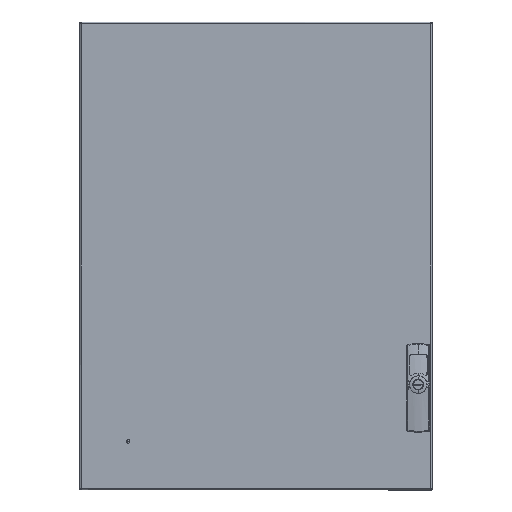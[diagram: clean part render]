
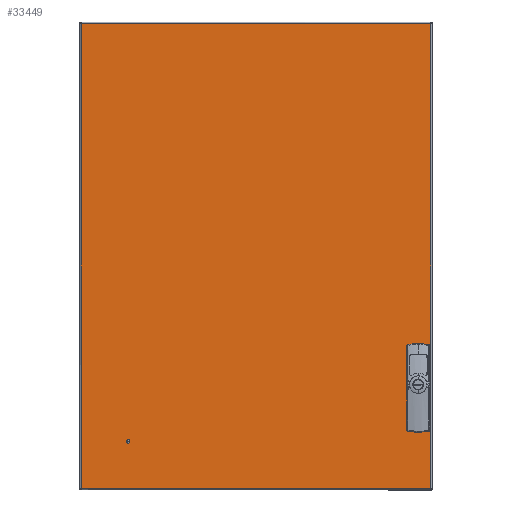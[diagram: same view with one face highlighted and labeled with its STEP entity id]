
A CAD part, top view. The second image highlights one B-rep face of the part: STEP entity #33449.
In plain terms, the highlighted planar face has unit normal (0, 0, 1) as drawn and (0, 0, -1) by its records, which use the part's own axes.
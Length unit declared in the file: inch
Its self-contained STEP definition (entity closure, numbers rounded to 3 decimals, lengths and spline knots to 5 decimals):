
#7613 = ORIENTED_EDGE ( 'NONE', *, *, #33613, .T. ) ;
#25292 = CARTESIAN_POINT ( 'NONE',  ( -11.2435, -6.0665, 0. ) ) ;
#25301 = CARTESIAN_POINT ( 'NONE',  ( -10.292, -10.9425, 0. ) ) ;
#25319 = CARTESIAN_POINT ( 'NONE',  ( -10.115, -10.9425, 0. ) ) ;
#25324 = CARTESIAN_POINT ( 'NONE',  ( -11.332, -6.0665, 0. ) ) ;
#25335 = CARTESIAN_POINT ( 'NONE',  ( -10.115, -6.0665, 0. ) ) ;
#25340 = CARTESIAN_POINT ( 'NONE',  ( -10.292, -6.0665, 0. ) ) ;
#25345 = DIRECTION ( 'NONE',  ( 1., 0., 0. ) ) ;
#25346 = DIRECTION ( 'NONE',  ( 0., 0., 1. ) ) ;
#25347 = AXIS2_PLACEMENT_3D ( 'NONE', #25292, #25346, #25345 ) ;
#25348 = CIRCLE ( 'NONE', #25347, 0.0885 ) ;
#25369 = DIRECTION ( 'NONE',  ( 1., 0., 0. ) ) ;
#25370 = DIRECTION ( 'NONE',  ( 0., 0., 1. ) ) ;
#25371 = CARTESIAN_POINT ( 'NONE',  ( -10.2035, -6.0665, 0. ) ) ;
#25372 = AXIS2_PLACEMENT_3D ( 'NONE', #25371, #25370, #25369 ) ;
#25373 = CIRCLE ( 'NONE', #25372, 0.0885 ) ;
#25402 = AXIS2_PLACEMENT_3D ( 'NONE', #25422, #25475, #25474 ) ;
#25422 = CARTESIAN_POINT ( 'NONE',  ( -10.2035, -10.9425, 0. ) ) ;
#25430 = CIRCLE ( 'NONE', #25402, 0.0885 ) ;
#25444 = CARTESIAN_POINT ( 'NONE',  ( -11.155, -6.0665, 0. ) ) ;
#25474 = DIRECTION ( 'NONE',  ( 1., 0., 0. ) ) ;
#25475 = DIRECTION ( 'NONE',  ( 0., 0., 1. ) ) ;
#25479 = CARTESIAN_POINT ( 'NONE',  ( -11.332, -10.9425, 0. ) ) ;
#25519 = DIRECTION ( 'NONE',  ( 1., 0., 0. ) ) ;
#25520 = DIRECTION ( 'NONE',  ( 0., 0., 1. ) ) ;
#25521 = AXIS2_PLACEMENT_3D ( 'NONE', #25531, #25520, #25519 ) ;
#25523 = CIRCLE ( 'NONE', #25521, 0.0885 ) ;
#25531 = CARTESIAN_POINT ( 'NONE',  ( -11.2435, -10.9425, 0. ) ) ;
#25532 = CARTESIAN_POINT ( 'NONE',  ( -11.155, -10.9425, 0. ) ) ;
#25658 = DIRECTION ( 'NONE',  ( 1., 0., 0. ) ) ;
#25659 = VECTOR ( 'NONE', #25658, 39.37008 ) ;
#25660 = CARTESIAN_POINT ( 'NONE',  ( -11.3985, -10.4045, 0. ) ) ;
#25661 = LINE ( 'NONE', #25660, #25659 ) ;
#25662 = FACE_BOUND ( 'NONE', #33516, .T. ) ;
#25663 = LINE ( 'NONE', #25712, #25703 ) ;
#25664 = FACE_BOUND ( 'NONE', #33388, .T. ) ;
#25666 = FACE_BOUND ( 'NONE', #33507, .T. ) ;
#25667 = FACE_BOUND ( 'NONE', #33466, .T. ) ;
#25672 = FACE_BOUND ( 'NONE', #33506, .T. ) ;
#25676 = PLANE ( 'NONE',  #25681 ) ;
#25681 = AXIS2_PLACEMENT_3D ( 'NONE', #25686, #25685, #25711 ) ;
#25682 = FACE_OUTER_BOUND ( 'NONE', #33492, .T. ) ;
#25685 = DIRECTION ( 'NONE',  ( 0., 0., 1. ) ) ;
#25686 = CARTESIAN_POINT ( 'NONE',  ( -11.5945, 15.4115, 0. ) ) ;
#25689 = CARTESIAN_POINT ( 'NONE',  ( -10.2035, -6.0665, 0. ) ) ;
#25692 = AXIS2_PLACEMENT_3D ( 'NONE', #25689, #25700, #25733 ) ;
#25693 = CIRCLE ( 'NONE', #25692, 0.0885 ) ;
#25694 = DIRECTION ( 'NONE',  ( 0., 1., 0. ) ) ;
#25695 = VECTOR ( 'NONE', #25694, 39.37008 ) ;
#25696 = CARTESIAN_POINT ( 'NONE',  ( -11.0885, -6.6045, 0. ) ) ;
#25697 = LINE ( 'NONE', #25696, #25695 ) ;
#25698 = CARTESIAN_POINT ( 'NONE',  ( -11.3985, -6.6045, 0. ) ) ;
#25699 = CARTESIAN_POINT ( 'NONE',  ( -11.0885, -10.4045, 0. ) ) ;
#25700 = DIRECTION ( 'NONE',  ( 0., 0., 1. ) ) ;
#25701 = CARTESIAN_POINT ( 'NONE',  ( -11.5345, 15.3515, 0. ) ) ;
#25702 = DIRECTION ( 'NONE',  ( -1., 0., 0. ) ) ;
#25703 = VECTOR ( 'NONE', #25702, 39.37008 ) ;
#25711 = DIRECTION ( 'NONE',  ( 1., 0., 0. ) ) ;
#25712 = CARTESIAN_POINT ( 'NONE',  ( -11.3985, -6.6045, 0. ) ) ;
#25718 = CARTESIAN_POINT ( 'NONE',  ( -11.5345, -15.40443, 0. ) ) ;
#25719 = LINE ( 'NONE', #25718, #25765 ) ;
#25724 = CARTESIAN_POINT ( 'NONE',  ( -11.0885, -6.6045, 0. ) ) ;
#25732 = CARTESIAN_POINT ( 'NONE',  ( -11.3985, -10.4045, 0. ) ) ;
#25733 = DIRECTION ( 'NONE',  ( 1., 0., 0. ) ) ;
#25743 = CARTESIAN_POINT ( 'NONE',  ( 11.5345, 15.3515, 0. ) ) ;
#25744 = DIRECTION ( 'NONE',  ( 1., 0., 0. ) ) ;
#25745 = VECTOR ( 'NONE', #25744, 39.37008 ) ;
#25749 = CARTESIAN_POINT ( 'NONE',  ( -11.58743, 15.3515, 0. ) ) ;
#25750 = LINE ( 'NONE', #25749, #25745 ) ;
#25755 = DIRECTION ( 'NONE',  ( 0., 1., 0. ) ) ;
#25761 = DIRECTION ( 'NONE',  ( 0., -1., 0. ) ) ;
#25762 = VECTOR ( 'NONE', #25761, 39.37008 ) ;
#25763 = CARTESIAN_POINT ( 'NONE',  ( -11.3985, -6.6045, 0. ) ) ;
#25764 = LINE ( 'NONE', #25763, #25762 ) ;
#25765 = VECTOR ( 'NONE', #25755, 39.37008 ) ;
#25779 = DIRECTION ( 'NONE',  ( 1., 0., 0. ) ) ;
#25780 = DIRECTION ( 'NONE',  ( 0., 0., 1. ) ) ;
#25781 = CARTESIAN_POINT ( 'NONE',  ( -11.2435, -10.9425, 0. ) ) ;
#25783 = AXIS2_PLACEMENT_3D ( 'NONE', #25781, #25780, #25779 ) ;
#25787 = DIRECTION ( 'NONE',  ( 1., 0., 0. ) ) ;
#25788 = DIRECTION ( 'NONE',  ( 0., 0., 1. ) ) ;
#25789 = CARTESIAN_POINT ( 'NONE',  ( -10.2035, -10.9425, 0. ) ) ;
#25790 = AXIS2_PLACEMENT_3D ( 'NONE', #25789, #25788, #25787 ) ;
#25791 = CARTESIAN_POINT ( 'NONE',  ( -11.5345, -15.3515, 0. ) ) ;
#25793 = CIRCLE ( 'NONE', #25783, 0.0885 ) ;
#25796 = DIRECTION ( 'NONE',  ( 1., 0., 0. ) ) ;
#25797 = DIRECTION ( 'NONE',  ( 0., 0., 1. ) ) ;
#25798 = CARTESIAN_POINT ( 'NONE',  ( -11.2435, -6.0665, 0. ) ) ;
#25801 = AXIS2_PLACEMENT_3D ( 'NONE', #25798, #25797, #25796 ) ;
#25802 = CIRCLE ( 'NONE', #25801, 0.0885 ) ;
#25806 = CIRCLE ( 'NONE', #25790, 0.0885 ) ;
#25889 = CARTESIAN_POINT ( 'NONE',  ( 11.5345, -15.3515, 0. ) ) ;
#25924 = DIRECTION ( 'NONE',  ( 0., -1., 0. ) ) ;
#25925 = VECTOR ( 'NONE', #25924, 39.37008 ) ;
#25926 = CARTESIAN_POINT ( 'NONE',  ( 11.5345, 15.40443, 0. ) ) ;
#25927 = LINE ( 'NONE', #25926, #25925 ) ;
#25953 = DIRECTION ( 'NONE',  ( -1., 0., 0. ) ) ;
#25954 = VECTOR ( 'NONE', #25953, 39.37008 ) ;
#25955 = CARTESIAN_POINT ( 'NONE',  ( 11.58743, -15.3515, 0. ) ) ;
#25956 = LINE ( 'NONE', #25955, #25954 ) ;
#33237 = VERTEX_POINT ( 'NONE', #25301 ) ;
#33240 = VERTEX_POINT ( 'NONE', #25319 ) ;
#33244 = EDGE_CURVE ( 'NONE', #33256, #33301, #25348, .T. ) ;
#33256 = VERTEX_POINT ( 'NONE', #25324 ) ;
#33257 = VERTEX_POINT ( 'NONE', #25340 ) ;
#33258 = VERTEX_POINT ( 'NONE', #25335 ) ;
#33266 = EDGE_CURVE ( 'NONE', #33257, #33258, #25373, .T. ) ;
#33301 = VERTEX_POINT ( 'NONE', #25444 ) ;
#33310 = EDGE_CURVE ( 'NONE', #33237, #33240, #25430, .T. ) ;
#33312 = VERTEX_POINT ( 'NONE', #25479 ) ;
#33359 = VERTEX_POINT ( 'NONE', #25532 ) ;
#33362 = EDGE_CURVE ( 'NONE', #33312, #33359, #25523, .T. ) ;
#33388 = EDGE_LOOP ( 'NONE', ( #33452, #33450, #33458, #33505 ) ) ;
#33448 = ORIENTED_EDGE ( 'NONE', *, *, #33310, .T. ) ;
#33449 = ADVANCED_FACE ( 'NONE', ( #25664, #25672, #25662, #25667, #25666, #25682 ), #25676, .F. ) ;
#33450 = ORIENTED_EDGE ( 'NONE', *, *, #33489, .T. ) ;
#33452 = ORIENTED_EDGE ( 'NONE', *, *, #33454, .T. ) ;
#33454 = EDGE_CURVE ( 'NONE', #33478, #33469, #25663, .T. ) ;
#33456 = VERTEX_POINT ( 'NONE', #25701 ) ;
#33458 = ORIENTED_EDGE ( 'NONE', *, *, #33460, .T. ) ;
#33460 = EDGE_CURVE ( 'NONE', #33476, #33488, #25661, .T. ) ;
#33462 = EDGE_CURVE ( 'NONE', #33488, #33478, #25697, .T. ) ;
#33464 = EDGE_CURVE ( 'NONE', #33258, #33257, #25693, .T. ) ;
#33466 = EDGE_LOOP ( 'NONE', ( #33513, #33448 ) ) ;
#33469 = VERTEX_POINT ( 'NONE', #25698 ) ;
#33476 = VERTEX_POINT ( 'NONE', #25732 ) ;
#33478 = VERTEX_POINT ( 'NONE', #25724 ) ;
#33488 = VERTEX_POINT ( 'NONE', #25699 ) ;
#33489 = EDGE_CURVE ( 'NONE', #33469, #33476, #25764, .T. ) ;
#33492 = EDGE_LOOP ( 'NONE', ( #33494, #33501, #7613, #33618 ) ) ;
#33494 = ORIENTED_EDGE ( 'NONE', *, *, #33495, .T. ) ;
#33495 = EDGE_CURVE ( 'NONE', #33522, #33456, #25719, .T. ) ;
#33498 = EDGE_CURVE ( 'NONE', #33456, #33504, #25750, .T. ) ;
#33501 = ORIENTED_EDGE ( 'NONE', *, *, #33498, .T. ) ;
#33504 = VERTEX_POINT ( 'NONE', #25743 ) ;
#33505 = ORIENTED_EDGE ( 'NONE', *, *, #33462, .T. ) ;
#33506 = EDGE_LOOP ( 'NONE', ( #33529, #33509 ) ) ;
#33507 = EDGE_LOOP ( 'NONE', ( #33521, #33566 ) ) ;
#33508 = ORIENTED_EDGE ( 'NONE', *, *, #33244, .T. ) ;
#33509 = ORIENTED_EDGE ( 'NONE', *, *, #33266, .T. ) ;
#33513 = ORIENTED_EDGE ( 'NONE', *, *, #33517, .T. ) ;
#33515 = EDGE_CURVE ( 'NONE', #33301, #33256, #25802, .T. ) ;
#33516 = EDGE_LOOP ( 'NONE', ( #33520, #33508 ) ) ;
#33517 = EDGE_CURVE ( 'NONE', #33240, #33237, #25806, .T. ) ;
#33520 = ORIENTED_EDGE ( 'NONE', *, *, #33515, .T. ) ;
#33521 = ORIENTED_EDGE ( 'NONE', *, *, #33524, .T. ) ;
#33522 = VERTEX_POINT ( 'NONE', #25791 ) ;
#33524 = EDGE_CURVE ( 'NONE', #33359, #33312, #25793, .T. ) ;
#33529 = ORIENTED_EDGE ( 'NONE', *, *, #33464, .T. ) ;
#33566 = ORIENTED_EDGE ( 'NONE', *, *, #33362, .T. ) ;
#33613 = EDGE_CURVE ( 'NONE', #33504, #33616, #25927, .T. ) ;
#33616 = VERTEX_POINT ( 'NONE', #25889 ) ;
#33618 = ORIENTED_EDGE ( 'NONE', *, *, #33621, .T. ) ;
#33621 = EDGE_CURVE ( 'NONE', #33616, #33522, #25956, .T. ) ;
